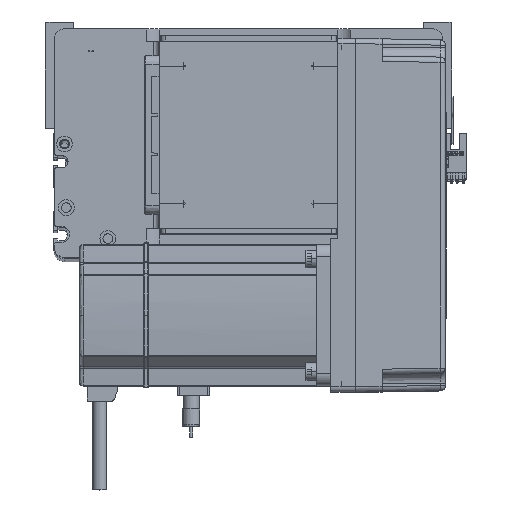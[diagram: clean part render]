
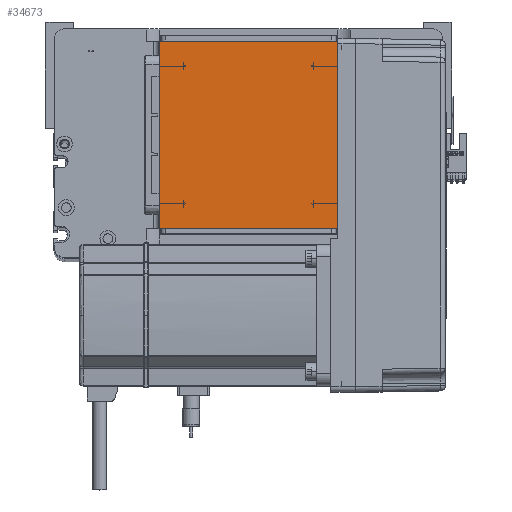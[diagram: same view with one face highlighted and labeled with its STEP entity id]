
A CAD part, top view. The second image highlights one B-rep face of the part: STEP entity #34673.
In plain terms, the highlighted planar face has unit normal (0, 0, 1).
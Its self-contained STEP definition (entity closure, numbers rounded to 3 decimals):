
#318 = ORIENTED_EDGE ( 'NONE', *, *, #12899, .T. ) ;
#2957 = DIRECTION ( 'NONE',  ( 1., 0., 0. ) ) ;
#3230 = EDGE_CURVE ( 'NONE', #6762, #3321, #14529, .T. ) ;
#3321 = VERTEX_POINT ( 'NONE', #23752 ) ;
#5849 = DIRECTION ( 'NONE',  ( 1., 0., 0. ) ) ;
#6762 = VERTEX_POINT ( 'NONE', #41134 ) ;
#11705 = AXIS2_PLACEMENT_3D ( 'NONE', #26309, #29621, #5849 ) ;
#12827 = LINE ( 'NONE', #36372, #15935 ) ;
#12899 = EDGE_CURVE ( 'NONE', #3321, #19516, #33930, .T. ) ;
#13405 = ORIENTED_EDGE ( 'NONE', *, *, #45730, .T. ) ;
#14070 = ORIENTED_EDGE ( 'NONE', *, *, #48944, .T. ) ;
#14529 = LINE ( 'NONE', #39262, #42527 ) ;
#15935 = VECTOR ( 'NONE', #48477, 1000. ) ;
#19516 = VERTEX_POINT ( 'NONE', #34599 ) ;
#23752 = CARTESIAN_POINT ( 'NONE',  ( -50.5, 122., 115. ) ) ;
#26309 = CARTESIAN_POINT ( 'NONE',  ( 0., 0., 115. ) ) ;
#27071 = CARTESIAN_POINT ( 'NONE',  ( -50.5, 122., 115. ) ) ;
#27708 = LINE ( 'NONE', #46753, #45171 ) ;
#29621 = DIRECTION ( 'NONE',  ( 0., 0., 1. ) ) ;
#32599 = VERTEX_POINT ( 'NONE', #44657 ) ;
#33930 = LINE ( 'NONE', #27071, #35795 ) ;
#34599 = CARTESIAN_POINT ( 'NONE',  ( -50.5, 16., 115. ) ) ;
#34673 = ADVANCED_FACE ( 'NONE', ( #39146 ), #41692, .T. ) ;
#35795 = VECTOR ( 'NONE', #51045, 1000. ) ;
#36372 = CARTESIAN_POINT ( 'NONE',  ( 50.5, 122., 115. ) ) ;
#39146 = FACE_OUTER_BOUND ( 'NONE', #41278, .T. ) ;
#39262 = CARTESIAN_POINT ( 'NONE',  ( -50.5, 122., 115. ) ) ;
#41134 = CARTESIAN_POINT ( 'NONE',  ( 50.5, 122., 115. ) ) ;
#41278 = EDGE_LOOP ( 'NONE', ( #318, #13405, #14070, #48672 ) ) ;
#41692 = PLANE ( 'NONE',  #11705 ) ;
#42527 = VECTOR ( 'NONE', #46732, 1000. ) ;
#44657 = CARTESIAN_POINT ( 'NONE',  ( 50.5, 16., 115. ) ) ;
#45171 = VECTOR ( 'NONE', #2957, 1000. ) ;
#45730 = EDGE_CURVE ( 'NONE', #19516, #32599, #27708, .T. ) ;
#46732 = DIRECTION ( 'NONE',  ( -1., 0., 0. ) ) ;
#46753 = CARTESIAN_POINT ( 'NONE',  ( -50.5, 16., 115. ) ) ;
#48477 = DIRECTION ( 'NONE',  ( 0., 1., 0. ) ) ;
#48672 = ORIENTED_EDGE ( 'NONE', *, *, #3230, .T. ) ;
#48944 = EDGE_CURVE ( 'NONE', #32599, #6762, #12827, .T. ) ;
#51045 = DIRECTION ( 'NONE',  ( 0., -1., 0. ) ) ;
